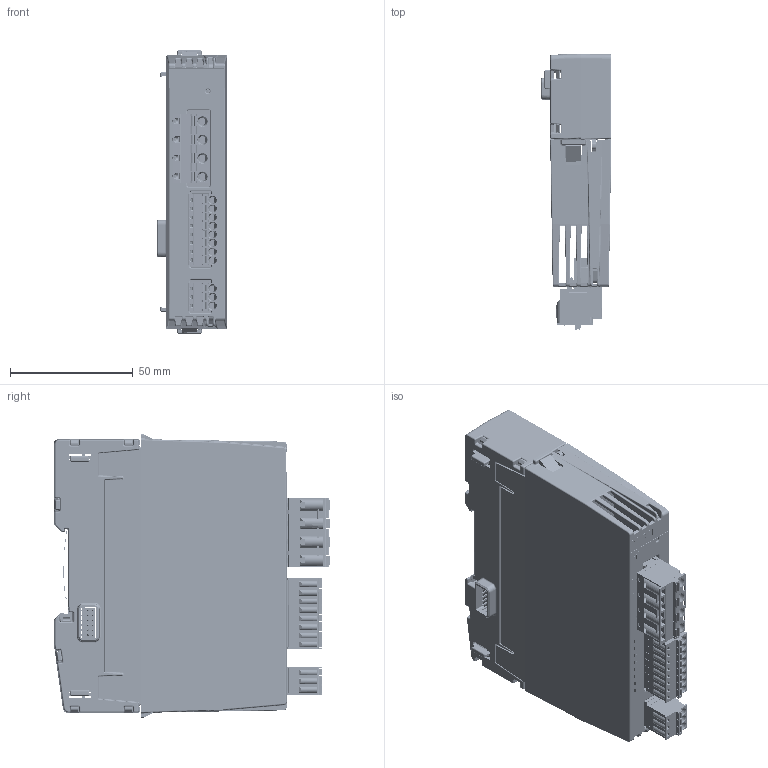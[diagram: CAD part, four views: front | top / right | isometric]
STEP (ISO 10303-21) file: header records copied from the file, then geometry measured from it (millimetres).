
FILE_DESCRIPTION(/* description */ (''),/* implementation_level */ '2;1');
FILE_NAME(/* name */ 'C:\Users\Public\Documents\Autodesk\Inventor 2023\PM03B_Simplified+BackBB21B.stp',/* time_stamp */ '2024-10-17T19:40:30+02:00',/* author */ ('shoma'),/* organization */ (''),/* preprocessor_version */ 'ST-DEVELOPER v19',/* originating_system */ 'Autodesk Inventor 2023',/* authorisation */ '');
FILE_SCHEMA (('AUTOMOTIVE_DESIGN { 1 0 10303 214 3 1 1 }'));
Products named in the file (1): PM03B_Simplified+BackBB21B
Bounding box: 28.9 x 112.6 x 115.5 mm (x, y, z)
Volume: 134090.6 mm3; surface area: 87890.1 mm2
Topology: 8 solids, 41 shells, 8277 faces, 22124 edges, 13911 vertices
Faces by surface type: plane 5311, cylinder 2059, bspline 563, sphere 163, cone 135, torus 46
Full cylindrical faces by diameter (mm): 0.296 x2, 0.3 x36, 0.434 x1, 0.457 x2, 0.7 x36, 0.8 x6, 0.85 x24, 0.9 x8, 1.17 x11, 1.25 x11, 1.3 x11, 1.4 x8, 1.5 x4, 1.6 x9, 2.35 x2, 2.5 x1, 2.8 x3, 3 x5, 3.1 x11, 3.25 x2, 4 x4
Entity records: 280552 total; most frequent: CARTESIAN_POINT 65692, ORIENTED_EDGE 43902, DIRECTION 41689, EDGE_CURVE 21951, LINE 15957, VECTOR 15957, VERTEX_POINT 13907, AXIS2_PLACEMENT_3D 12866
